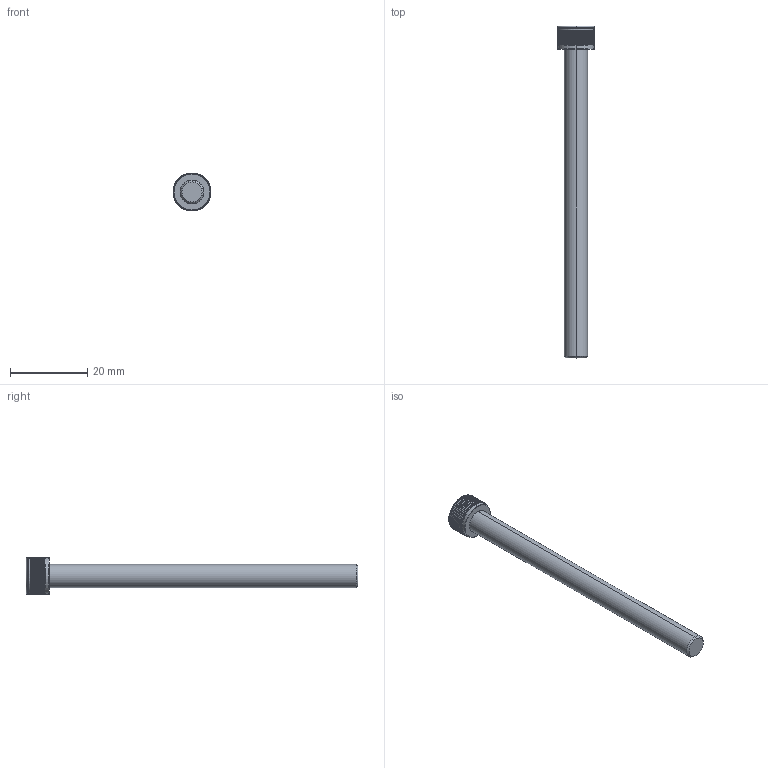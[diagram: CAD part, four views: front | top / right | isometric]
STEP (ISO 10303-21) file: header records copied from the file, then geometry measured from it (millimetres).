
FILE_DESCRIPTION (( 'STEP AP203' ), '1' );
FILE_NAME ('LGDT-304-M6x80.STEP', '2026-08-10T04:54:59', ( '' ), ( '' ), 'SwSTEP 2.0', 'SolidWorks 2020', '' );
FILE_SCHEMA (( 'CONFIG_CONTROL_DESIGN' ));
Length unit declared in the file: millimetre
Products named in the file (1): LGDT-304-M6x80
Bounding box: 9.8 x 86 x 9.8 mm (x, y, z)
Volume: 2628.6 mm3; surface area: 1885.7 mm2
Topology: 1 solids, 1 shells, 204 faces, 576 edges, 376 vertices
Faces by surface type: cylinder 175, cone 11, plane 10, torus 8
Entity records: 8367 total; most frequent: CARTESIAN_POINT 3208, ORIENTED_EDGE 1152, DIRECTION 988, EDGE_CURVE 576, AXIS2_PLACEMENT_3D 398, VERTEX_POINT 376, EDGE_LOOP 206, FACE_OUTER_BOUND 204
